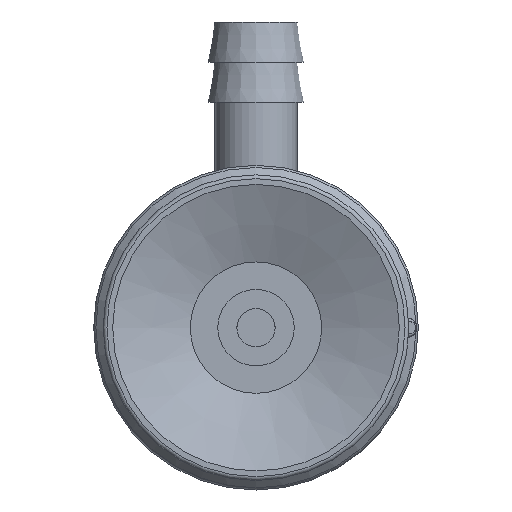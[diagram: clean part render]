
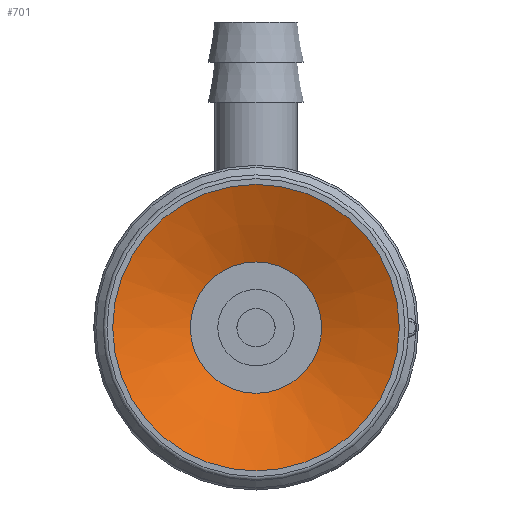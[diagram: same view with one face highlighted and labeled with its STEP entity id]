
A CAD part, front view. The second image highlights one B-rep face of the part: STEP entity #701.
In plain terms, the highlighted conical face has half-angle 67.5 degrees and reference radius 3.437 mm.
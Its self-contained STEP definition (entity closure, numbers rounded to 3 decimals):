
#701=ADVANCED_FACE('',(#999,#1000),#1001,.F.);
#999=FACE_BOUND('',#2361,.T.);
#1000=FACE_OUTER_BOUND('',#2362,.T.);
#1001=CONICAL_SURFACE('',#2363,3.437,1.178);
#2361=EDGE_LOOP('',(#3132));
#2362=EDGE_LOOP('',(#3133));
#2363=AXIS2_PLACEMENT_3D('',#3134,#3135,#3136);
#3132=ORIENTED_EDGE('',*,*,#3511,.F.);
#3133=ORIENTED_EDGE('',*,*,#3501,.T.);
#3134=CARTESIAN_POINT('',(0.0,0.0,1.683));
#3135=DIRECTION('',(0.0,0.,-1.0));
#3136=DIRECTION('',(0.0,1.0,0.));
#3501=EDGE_CURVE('',#3867,#3867,#3868,.T.);
#3511=EDGE_CURVE('',#3887,#3887,#3888,.T.);
#3867=VERTEX_POINT('',#4868);
#3868=CIRCLE('',#4869,7.5);
#3887=VERTEX_POINT('',#4888);
#3888=CIRCLE('',#4889,3.437);
#4868=CARTESIAN_POINT('',(-7.5,0.0,0.));
#4869=AXIS2_PLACEMENT_3D('',#5234,#5235,#5236);
#4888=CARTESIAN_POINT('',(-3.437,0.0,1.683));
#4889=AXIS2_PLACEMENT_3D('',#5264,#5265,#5266);
#5234=CARTESIAN_POINT('',(0.0,0.0,0.));
#5235=DIRECTION('',(0.0,0.,-1.0));
#5236=DIRECTION('',(0.0,1.0,0.));
#5264=CARTESIAN_POINT('',(0.0,0.0,1.683));
#5265=DIRECTION('',(0.0,0.,-1.0));
#5266=DIRECTION('',(0.0,1.0,0.));
